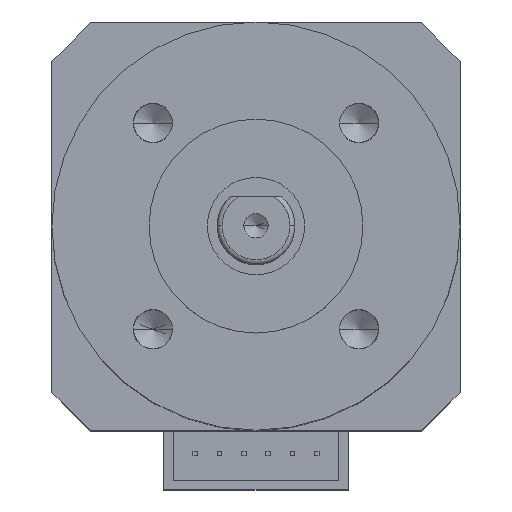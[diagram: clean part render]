
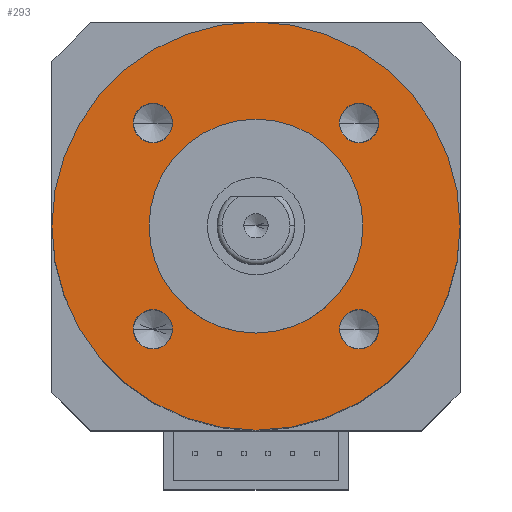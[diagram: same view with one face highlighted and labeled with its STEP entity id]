
A CAD part, top view. The second image highlights one B-rep face of the part: STEP entity #293.
In plain terms, the highlighted planar face has unit normal (0, 0, 1).
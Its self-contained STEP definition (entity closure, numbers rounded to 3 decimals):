
#22 = EDGE_CURVE ( 'NONE', #2246, #2098, #1219, .T. ) ;
#42 = EDGE_LOOP ( 'NONE', ( #2664, #838 ) ) ;
#48 = FACE_OUTER_BOUND ( 'NONE', #2512, .T. ) ;
#53 = ORIENTED_EDGE ( 'NONE', *, *, #633, .F. ) ;
#59 = EDGE_CURVE ( 'NONE', #2787, #85, #1404, .T. ) ;
#85 = VERTEX_POINT ( 'NONE', #784 ) ;
#211 = CARTESIAN_POINT ( 'NONE',  ( -8.582, -10.607, 0. ) ) ;
#228 = VERTEX_POINT ( 'NONE', #3135 ) ;
#231 = FACE_BOUND ( 'NONE', #894, .T. ) ;
#246 = EDGE_LOOP ( 'NONE', ( #358, #3364 ) ) ;
#283 = CIRCLE ( 'NONE', #1651, 2.025 ) ;
#293 = ADVANCED_FACE ( 'NONE', ( #231, #2754, #778, #2005, #48, #2927 ), #1461, .F. ) ;
#353 = DIRECTION ( 'NONE',  ( -1., 0., 0. ) ) ;
#358 = ORIENTED_EDGE ( 'NONE', *, *, #736, .F. ) ;
#375 = CARTESIAN_POINT ( 'NONE',  ( -21., 0., 0. ) ) ;
#381 = CIRCLE ( 'NONE', #816, 2.025 ) ;
#505 = DIRECTION ( 'NONE',  ( 0., 0., 1. ) ) ;
#526 = CARTESIAN_POINT ( 'NONE',  ( 10.607, 10.607, 0. ) ) ;
#633 = EDGE_CURVE ( 'NONE', #228, #2126, #2574, .T. ) ;
#680 = CARTESIAN_POINT ( 'NONE',  ( -8.582, 10.607, 0. ) ) ;
#715 = DIRECTION ( 'NONE',  ( 1., 0., 0. ) ) ;
#719 = AXIS2_PLACEMENT_3D ( 'NONE', #3495, #3539, #715 ) ;
#725 = CARTESIAN_POINT ( 'NONE',  ( 0., 0., 0. ) ) ;
#736 = EDGE_CURVE ( 'NONE', #1722, #2193, #2615, .T. ) ;
#742 = CARTESIAN_POINT ( 'NONE',  ( -10.607, -10.607, 0. ) ) ;
#750 = AXIS2_PLACEMENT_3D ( 'NONE', #725, #3000, #3514 ) ;
#778 = FACE_BOUND ( 'NONE', #1550, .T. ) ;
#784 = CARTESIAN_POINT ( 'NONE',  ( 21., 0., 0. ) ) ;
#789 = DIRECTION ( 'NONE',  ( 0., 0., 1. ) ) ;
#816 = AXIS2_PLACEMENT_3D ( 'NONE', #1180, #3140, #2285 ) ;
#838 = ORIENTED_EDGE ( 'NONE', *, *, #3610, .F. ) ;
#841 = AXIS2_PLACEMENT_3D ( 'NONE', #958, #2631, #2877 ) ;
#844 = AXIS2_PLACEMENT_3D ( 'NONE', #2579, #2048, #353 ) ;
#894 = EDGE_LOOP ( 'NONE', ( #2719, #53 ) ) ;
#958 = CARTESIAN_POINT ( 'NONE',  ( -10.607, -10.607, 0. ) ) ;
#984 = AXIS2_PLACEMENT_3D ( 'NONE', #3021, #1912, #2747 ) ;
#1037 = CARTESIAN_POINT ( 'NONE',  ( -12.632, -10.607, 0. ) ) ;
#1115 = CARTESIAN_POINT ( 'NONE',  ( 10.607, 10.607, 0. ) ) ;
#1180 = CARTESIAN_POINT ( 'NONE',  ( 10.607, -10.607, 0. ) ) ;
#1192 = EDGE_CURVE ( 'NONE', #2193, #1722, #2398, .T. ) ;
#1198 = CIRCLE ( 'NONE', #1808, 2.025 ) ;
#1219 = CIRCLE ( 'NONE', #2609, 11. ) ;
#1270 = CIRCLE ( 'NONE', #3312, 11. ) ;
#1321 = EDGE_CURVE ( 'NONE', #3522, #2868, #381, .T. ) ;
#1357 = CARTESIAN_POINT ( 'NONE',  ( 12.632, 10.607, 0. ) ) ;
#1386 = DIRECTION ( 'NONE',  ( -1., 0., 0. ) ) ;
#1399 = CARTESIAN_POINT ( 'NONE',  ( 0., 0., 0. ) ) ;
#1404 = CIRCLE ( 'NONE', #984, 21. ) ;
#1423 = DIRECTION ( 'NONE',  ( 1., 0., 0. ) ) ;
#1425 = EDGE_CURVE ( 'NONE', #1674, #2257, #3038, .T. ) ;
#1461 = PLANE ( 'NONE',  #844 ) ;
#1550 = EDGE_LOOP ( 'NONE', ( #1784, #2941 ) ) ;
#1595 = DIRECTION ( 'NONE',  ( 1., 0., 0. ) ) ;
#1651 = AXIS2_PLACEMENT_3D ( 'NONE', #742, #2698, #3253 ) ;
#1655 = DIRECTION ( 'NONE',  ( 0., 0., 1. ) ) ;
#1674 = VERTEX_POINT ( 'NONE', #211 ) ;
#1685 = AXIS2_PLACEMENT_3D ( 'NONE', #526, #1655, #2514 ) ;
#1713 = DIRECTION ( 'NONE',  ( 0., 0., 1. ) ) ;
#1721 = CIRCLE ( 'NONE', #719, 2.025 ) ;
#1722 = VERTEX_POINT ( 'NONE', #1357 ) ;
#1731 = EDGE_CURVE ( 'NONE', #2126, #228, #1198, .T. ) ;
#1784 = ORIENTED_EDGE ( 'NONE', *, *, #1321, .F. ) ;
#1803 = CARTESIAN_POINT ( 'NONE',  ( 8.582, 10.607, 0. ) ) ;
#1808 = AXIS2_PLACEMENT_3D ( 'NONE', #2182, #505, #1595 ) ;
#1825 = CARTESIAN_POINT ( 'NONE',  ( -11., 0., 0. ) ) ;
#1889 = ORIENTED_EDGE ( 'NONE', *, *, #3072, .F. ) ;
#1912 = DIRECTION ( 'NONE',  ( 0., 0., 1. ) ) ;
#1957 = DIRECTION ( 'NONE',  ( 1., 0., 0. ) ) ;
#2005 = FACE_BOUND ( 'NONE', #2143, .T. ) ;
#2048 = DIRECTION ( 'NONE',  ( 0., 0., -1. ) ) ;
#2098 = VERTEX_POINT ( 'NONE', #2890 ) ;
#2126 = VERTEX_POINT ( 'NONE', #680 ) ;
#2143 = EDGE_LOOP ( 'NONE', ( #3475, #1889 ) ) ;
#2182 = CARTESIAN_POINT ( 'NONE',  ( -10.607, 10.607, 0. ) ) ;
#2193 = VERTEX_POINT ( 'NONE', #1803 ) ;
#2232 = EDGE_CURVE ( 'NONE', #2868, #3522, #1721, .T. ) ;
#2246 = VERTEX_POINT ( 'NONE', #1825 ) ;
#2257 = VERTEX_POINT ( 'NONE', #1037 ) ;
#2285 = DIRECTION ( 'NONE',  ( 1., 0., 0. ) ) ;
#2317 = ORIENTED_EDGE ( 'NONE', *, *, #3483, .T. ) ;
#2369 = CIRCLE ( 'NONE', #750, 21. ) ;
#2398 = CIRCLE ( 'NONE', #1685, 2.025 ) ;
#2493 = ORIENTED_EDGE ( 'NONE', *, *, #59, .T. ) ;
#2512 = EDGE_LOOP ( 'NONE', ( #2317, #2493 ) ) ;
#2514 = DIRECTION ( 'NONE',  ( 1., 0., 0. ) ) ;
#2574 = CIRCLE ( 'NONE', #2811, 2.025 ) ;
#2579 = CARTESIAN_POINT ( 'NONE',  ( 0., 0., 0. ) ) ;
#2609 = AXIS2_PLACEMENT_3D ( 'NONE', #2733, #2993, #3049 ) ;
#2615 = CIRCLE ( 'NONE', #3509, 2.025 ) ;
#2631 = DIRECTION ( 'NONE',  ( 0., 0., 1. ) ) ;
#2664 = ORIENTED_EDGE ( 'NONE', *, *, #22, .F. ) ;
#2698 = DIRECTION ( 'NONE',  ( 0., 0., 1. ) ) ;
#2719 = ORIENTED_EDGE ( 'NONE', *, *, #1731, .F. ) ;
#2733 = CARTESIAN_POINT ( 'NONE',  ( 0., 0., 0. ) ) ;
#2747 = DIRECTION ( 'NONE',  ( -1., 0., 0. ) ) ;
#2754 = FACE_BOUND ( 'NONE', #246, .T. ) ;
#2787 = VERTEX_POINT ( 'NONE', #375 ) ;
#2811 = AXIS2_PLACEMENT_3D ( 'NONE', #3383, #1713, #1957 ) ;
#2868 = VERTEX_POINT ( 'NONE', #3185 ) ;
#2877 = DIRECTION ( 'NONE',  ( 1., 0., 0. ) ) ;
#2890 = CARTESIAN_POINT ( 'NONE',  ( 11., 0., 0. ) ) ;
#2927 = FACE_BOUND ( 'NONE', #42, .T. ) ;
#2941 = ORIENTED_EDGE ( 'NONE', *, *, #2232, .F. ) ;
#2993 = DIRECTION ( 'NONE',  ( 0., 0., 1. ) ) ;
#3000 = DIRECTION ( 'NONE',  ( 0., 0., 1. ) ) ;
#3021 = CARTESIAN_POINT ( 'NONE',  ( 0., 0., 0. ) ) ;
#3038 = CIRCLE ( 'NONE', #841, 2.025 ) ;
#3049 = DIRECTION ( 'NONE',  ( -1., 0., 0. ) ) ;
#3072 = EDGE_CURVE ( 'NONE', #2257, #1674, #283, .T. ) ;
#3135 = CARTESIAN_POINT ( 'NONE',  ( -12.632, 10.607, 0. ) ) ;
#3140 = DIRECTION ( 'NONE',  ( 0., 0., 1. ) ) ;
#3185 = CARTESIAN_POINT ( 'NONE',  ( 8.582, -10.607, 0. ) ) ;
#3253 = DIRECTION ( 'NONE',  ( 1., 0., 0. ) ) ;
#3312 = AXIS2_PLACEMENT_3D ( 'NONE', #1399, #789, #1386 ) ;
#3354 = DIRECTION ( 'NONE',  ( 0., 0., 1. ) ) ;
#3364 = ORIENTED_EDGE ( 'NONE', *, *, #1192, .F. ) ;
#3383 = CARTESIAN_POINT ( 'NONE',  ( -10.607, 10.607, 0. ) ) ;
#3475 = ORIENTED_EDGE ( 'NONE', *, *, #1425, .F. ) ;
#3483 = EDGE_CURVE ( 'NONE', #85, #2787, #2369, .T. ) ;
#3495 = CARTESIAN_POINT ( 'NONE',  ( 10.607, -10.607, 0. ) ) ;
#3509 = AXIS2_PLACEMENT_3D ( 'NONE', #1115, #3354, #1423 ) ;
#3514 = DIRECTION ( 'NONE',  ( -1., 0., 0. ) ) ;
#3522 = VERTEX_POINT ( 'NONE', #3547 ) ;
#3539 = DIRECTION ( 'NONE',  ( 0., 0., 1. ) ) ;
#3547 = CARTESIAN_POINT ( 'NONE',  ( 12.632, -10.607, 0. ) ) ;
#3610 = EDGE_CURVE ( 'NONE', #2098, #2246, #1270, .T. ) ;
